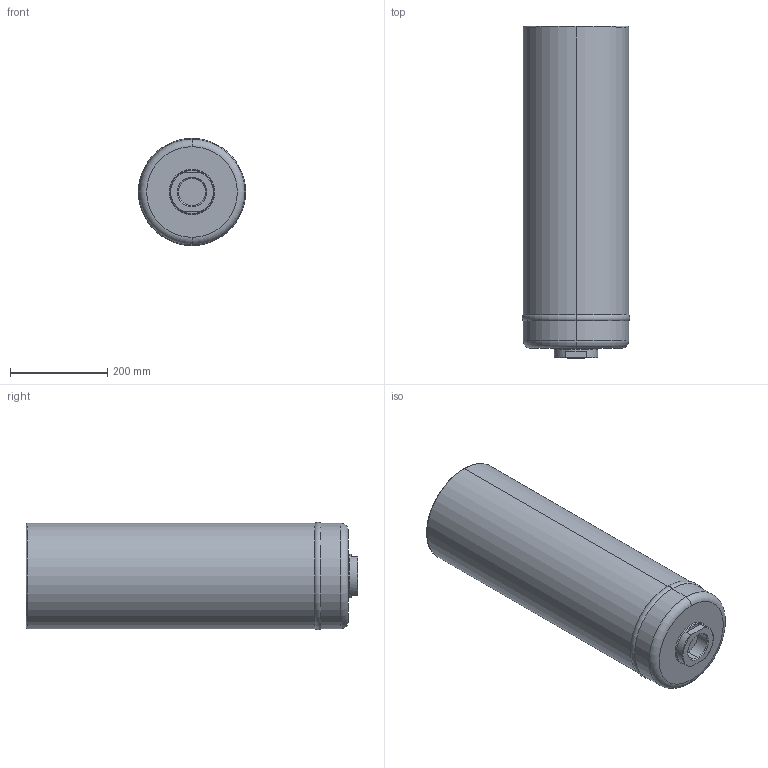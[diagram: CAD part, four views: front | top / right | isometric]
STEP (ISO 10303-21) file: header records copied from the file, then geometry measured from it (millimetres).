
FILE_DESCRIPTION (( 'STEP AP214' ), '1' );
FILE_NAME ('U150A10X1-AI.STEP', '2025-05-28T10:09:56', ( '' ), ( '' ), 'SwSTEP 2.0', 'SolidWorks 2024', '' );
FILE_SCHEMA (( 'AUTOMOTIVE_DESIGN' ));
Length unit declared in the file: millimetre
Products named in the file (1): U150A10X1-AI
Bounding box: 221.3 x 684 x 221.3 mm (x, y, z)
Volume: 23614846.1 mm3; surface area: 569084.2 mm2
Topology: 7 solids, 7 shells, 260 faces, 579 edges, 344 vertices
Faces by surface type: plane 106, cylinder 73, torus 45, cone 32, sphere 4
Entity records: 7339 total; most frequent: DIRECTION 1363, CARTESIAN_POINT 1341, ORIENTED_EDGE 1134, EDGE_CURVE 567, AXIS2_PLACEMENT_3D 555, VERTEX_POINT 344, EDGE_LOOP 299, CIRCLE 294
